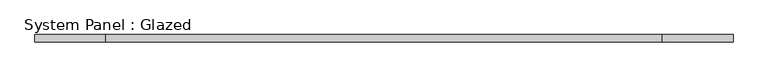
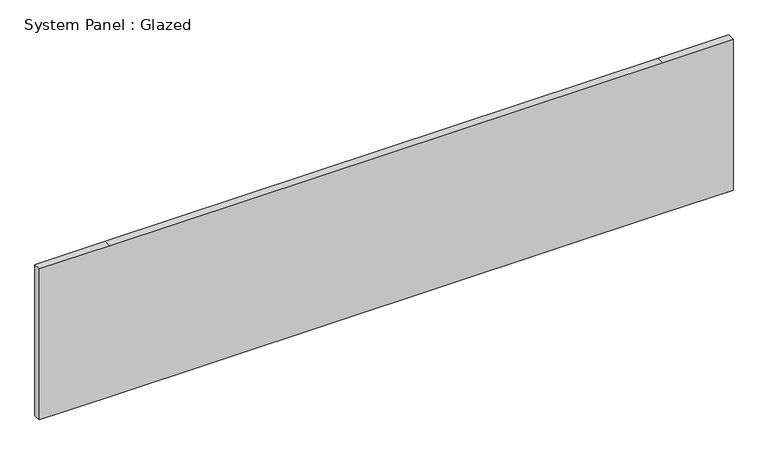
"""IFC4 building model written with IfcOpenShell, lengths in millimetres: plate geometry, System Panel : Glazed."""

from ifc_helpers import new_model, si_unit, frame, origin, place, context, project, spatial, polyline, outline, extrude, source, transform, mapped, element, save


def system_panel_glazed_7ab8f380(model_context):
    return source(origin(), model_context, "Body", "SweptSolid", [
        extrude(outline(polyline([(0.0, -1187.45), (0.0, -946.15), (0.0, 946.15), (0.0, 1187.45), (546.1, 1187.45), (546.1, 946.15), (546.1, -946.15), (546.1, -1187.45), (0.0, -1187.45)])), frame((0.0, -44.45, 0.0), z_axis=(0.0, 1.0, 0.0), x_axis=(0.0, 0.0, 1.0)), (0.0, 0.0, 1.0), 25.4),
    ])


if __name__ == "__main__":
    model = new_model("IFC4")
    model_context = context("Model", 3, world=origin())
    ifc_project = project(units=[si_unit("LENGTHUNIT", "METRE", prefix="MILLI")], contexts=[model_context])
    site = spatial("IfcSite", under=ifc_project)
    building = spatial("IfcBuilding", under=site)
    placement = place(None, origin())
    system_panel_glazed_shape = system_panel_glazed_7ab8f380(model_context)
    element("IfcPlate", 1, ObjectType="System Panel : Glazed", at=placement, inside=building, context=model_context, shape_type="MappedRepresentation", body=[
        mapped(system_panel_glazed_shape, transform((0.0, 0.0, 0.0), x_axis=(1.0, 0.0, 0.0), y_axis=(0.0, 1.0, 0.0), z_axis=(0.0, 0.0, 1.0))),
    ])
    save(model, "model.ifc")
